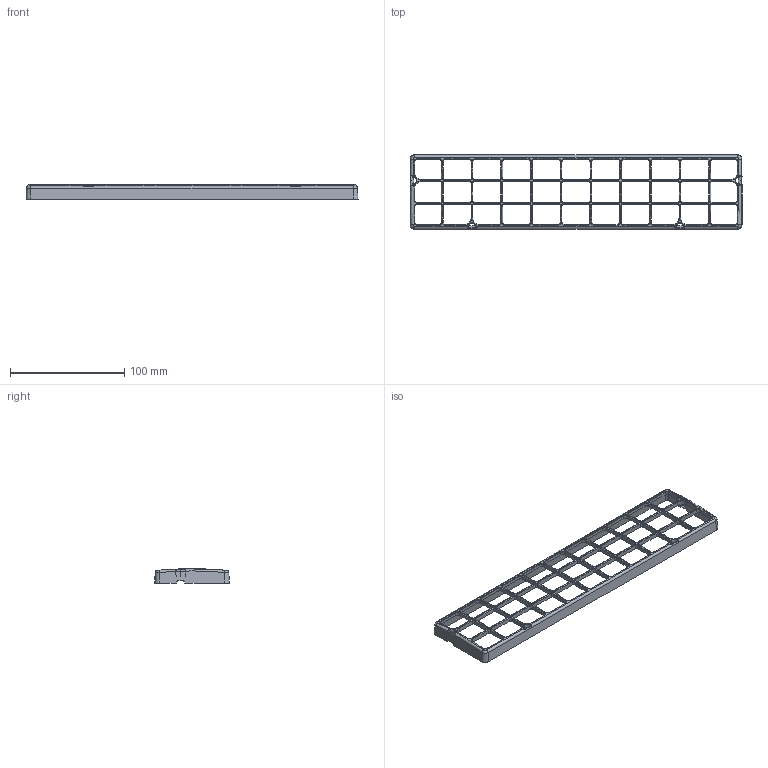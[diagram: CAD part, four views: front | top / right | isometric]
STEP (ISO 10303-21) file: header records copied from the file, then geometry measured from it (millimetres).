
FILE_DESCRIPTION(('CATIA V5 STEP Exchange'),'2;1');
FILE_NAME('C:\Users\lauri.stenberg\Documents\MECHMODELS\C14453_FLORENCE-3R-SHD_001_20140514_ym.stp','2014-05-14T11:17:16+00:00',('none'),('none'),'Version 5-6 Release 2013','CATIA V5 STEP AP203','none');
FILE_SCHEMA(('CONFIG_CONTROL_DESIGN'));
Length unit declared in the file: millimetre
Products named in the file (1): C14453
Bounding box: 290.58 x 65.58 x 12.63 mm (x, y, z)
Volume: 25614.1 mm3; surface area: 31447.5 mm2
Topology: 1 solids, 5 shells, 706 faces, 1824 edges, 1094 vertices
Faces by surface type: bspline 249, cylinder 227, plane 185, sphere 24, torus 9, cone 8, extrusion 4
Entity records: 33987 total; most frequent: CARTESIAN_POINT 19895, ORIENTED_EDGE 3600, EDGE_CURVE 1800, DIRECTION 1620, VERTEX_POINT 1094, B_SPLINE_CURVE_WITH_KNOTS 956, EDGE_LOOP 770, VECTOR 710
